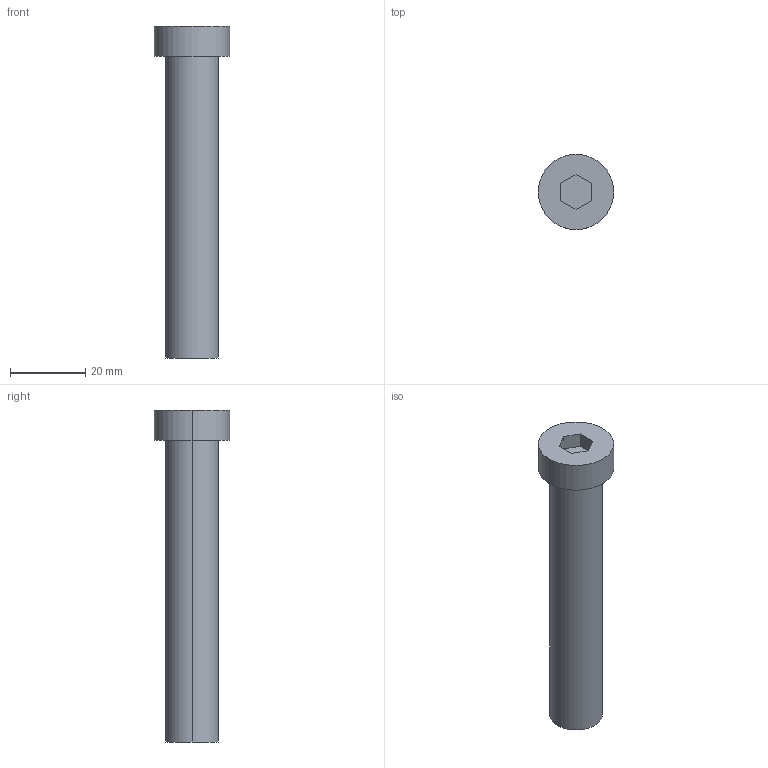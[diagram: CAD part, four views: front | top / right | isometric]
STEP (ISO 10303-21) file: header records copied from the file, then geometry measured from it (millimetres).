
FILE_DESCRIPTION (( 'STEP AP214' ), '1' );
FILE_NAME ('BruyRubio_TGH__14_x_80_-_M-8.STEP', '2019-12-22T23:34:35', ( '' ), ( '' ), 'SwSTEP 2.0', 'SolidWorks 2017', '' );
FILE_SCHEMA (( 'AUTOMOTIVE_DESIGN' ));
Length unit declared in the file: millimetre
Products named in the file (1): BruyRubio_TGH__14_x_80_-_M-8
Bounding box: 20 x 20 x 88 mm (x, y, z)
Volume: 13878.8 mm3; surface area: 6121.6 mm2
Topology: 2 solids, 2 shells, 27 faces, 58 edges, 37 vertices
Faces by surface type: plane 13, cylinder 12, cone 2
Entity records: 1070 total; most frequent: DIRECTION 136, CARTESIAN_POINT 121, ORIENTED_EDGE 112, EDGE_CURVE 56, AXIS2_PLACEMENT_3D 52, VERTEX_POINT 37, EDGE_LOOP 33, VECTOR 32
